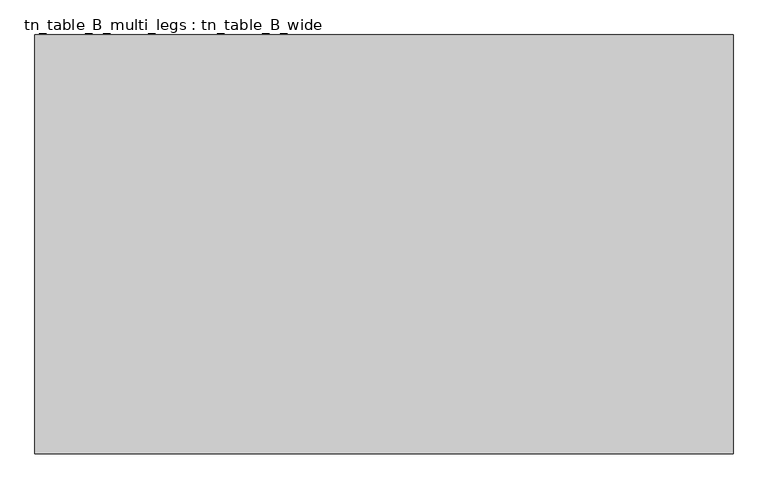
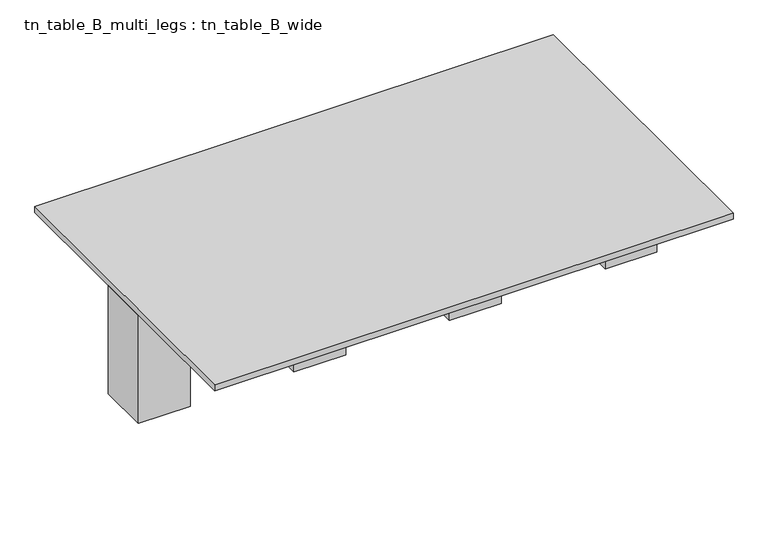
"""IFC4 building model written with IfcOpenShell, lengths in millimetres: furniture geometry, tn_table_B_multi_legs : tn_table_B_wide."""

from ifc_helpers import new_model, si_unit, frame, origin, origin_with_axes, place, context, project, spatial, polyline, outline, extrude, source, transform, mapped, element, save


def tn_table_b_multi_legs_tn_table_b_wide_c729616e(model_context):
    return source(origin(), model_context, "Body", "SweptSolid", [
        extrude(outline(polyline([(1511.2621021, 165.9256545), (1511.2621021, -138.8743455), (1206.4621021, -138.8743455), (1206.4621021, 165.9256545), (1511.2621021, 165.9256545)])), origin_with_axes(), (0.0, 0.0, 1.0), 673.1),
        extrude(outline(polyline([(596.8621021, 165.9256545), (596.8621021, -138.8743455), (292.0621021, -138.8743455), (292.0621021, 165.9256545), (596.8621021, 165.9256545)])), origin_with_axes(), (0.0, 0.0, 1.0), 673.1),
        extrude(outline(polyline([(-317.5378979, 165.9256545), (-317.5378979, -138.8743455), (-622.3378979, -138.8743455), (-622.3378979, 165.9256545), (-317.5378979, 165.9256545)])), origin_with_axes(), (0.0, 0.0, 1.0), 673.1),
        extrude(outline(polyline([(-1231.9378979, 165.9256545), (-1231.9378979, -138.8743455), (-1536.7378979, -138.8743455), (-1536.7378979, 165.9256545), (-1231.9378979, 165.9256545)])), origin_with_axes(), (0.0, 0.0, 1.0), 673.1),
        extrude(outline(polyline([(1511.2621021, 914.4), (1511.2621021, -914.4), (-1536.7378979, -914.4), (-1536.7378979, 914.4), (1511.2621021, 914.4)])), frame((0.0, 0.0, 673.1), z_axis=(0.0, 0.0, 1.0), x_axis=(1.0, 0.0, 0.0)), (0.0, 0.0, 1.0), 38.1),
    ])


if __name__ == "__main__":
    model = new_model("IFC4")
    model_context = context("Model", 3, world=origin())
    ifc_project = project(units=[si_unit("LENGTHUNIT", "METRE", prefix="MILLI")], contexts=[model_context])
    site = spatial("IfcSite", under=ifc_project)
    building = spatial("IfcBuilding", under=site)
    placement = place(None, origin())
    tn_table_b_multi_legs_tn_table_b_wide_shape = tn_table_b_multi_legs_tn_table_b_wide_c729616e(model_context)
    element("IfcFurniture", 1, ObjectType="tn_table_B_multi_legs : tn_table_B_wide", at=placement, inside=building, context=model_context, shape_type="MappedRepresentation", body=[
        mapped(tn_table_b_multi_legs_tn_table_b_wide_shape, transform((0.0, 0.0, 0.0), x_axis=(1.0, 0.0, 0.0), y_axis=(0.0, 1.0, 0.0), z_axis=(0.0, 0.0, 1.0))),
    ])
    save(model, "model.ifc")
